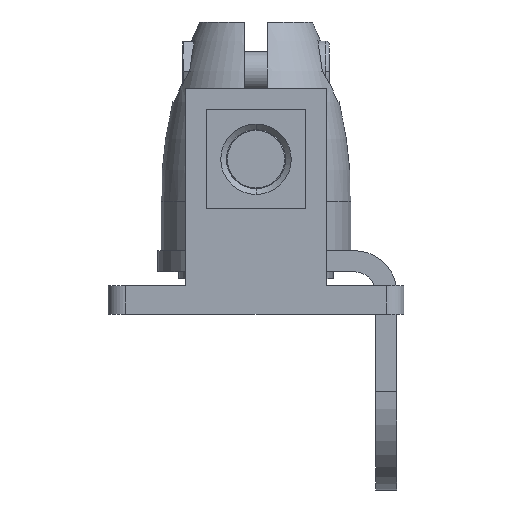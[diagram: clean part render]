
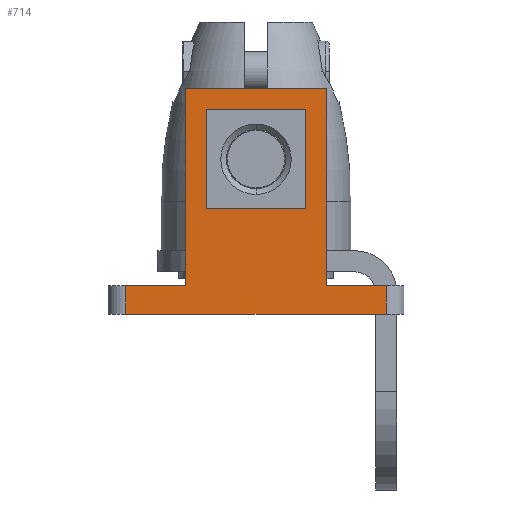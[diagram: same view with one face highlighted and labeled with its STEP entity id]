
A CAD part, front view. The second image highlights one B-rep face of the part: STEP entity #714.
In plain terms, the highlighted planar face has unit normal (0, -1, 0).
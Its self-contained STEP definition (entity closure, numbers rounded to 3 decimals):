
#714 = ADVANCED_FACE( '', ( #1169, #1170 ), #1171, .T. );
#1169 = FACE_OUTER_BOUND( '', #1650, .T. );
#1170 = FACE_BOUND( '', #1651, .T. );
#1171 = PLANE( '', #1652 );
#1650 = EDGE_LOOP( '', ( #3310, #3311, #3312, #3313, #3314, #3315, #3316, #3317 ) );
#1651 = EDGE_LOOP( '', ( #3318, #3319, #3320, #3321 ) );
#1652 = AXIS2_PLACEMENT_3D( '', #3322, #3323, #3324 );
#3310 = ORIENTED_EDGE( '', *, *, #3980, .F. );
#3311 = ORIENTED_EDGE( '', *, *, #3981, .T. );
#3312 = ORIENTED_EDGE( '', *, *, #3982, .T. );
#3313 = ORIENTED_EDGE( '', *, *, #3959, .F. );
#3314 = ORIENTED_EDGE( '', *, *, #3969, .T. );
#3315 = ORIENTED_EDGE( '', *, *, #3983, .F. );
#3316 = ORIENTED_EDGE( '', *, *, #3973, .F. );
#3317 = ORIENTED_EDGE( '', *, *, #3947, .F. );
#3318 = ORIENTED_EDGE( '', *, *, #3984, .T. );
#3319 = ORIENTED_EDGE( '', *, *, #3985, .T. );
#3320 = ORIENTED_EDGE( '', *, *, #3986, .T. );
#3321 = ORIENTED_EDGE( '', *, *, #3987, .T. );
#3322 = CARTESIAN_POINT( '', ( 10., -72.25, 26. ) );
#3323 = DIRECTION( '', ( 0., -1., 0. ) );
#3324 = DIRECTION( '', ( 0., 0., 1. ) );
#3947 = EDGE_CURVE( '', #4814, #4817, #4818, .T. );
#3959 = EDGE_CURVE( '', #4837, #4829, #4839, .T. );
#3969 = EDGE_CURVE( '', #4837, #4853, #4855, .T. );
#3973 = EDGE_CURVE( '', #4817, #4857, #4861, .T. );
#3980 = EDGE_CURVE( '', #4870, #4814, #4871, .T. );
#3981 = EDGE_CURVE( '', #4870, #4872, #4873, .T. );
#3982 = EDGE_CURVE( '', #4872, #4829, #4874, .T. );
#3983 = EDGE_CURVE( '', #4857, #4853, #4875, .T. );
#3984 = EDGE_CURVE( '', #4876, #4877, #4878, .T. );
#3985 = EDGE_CURVE( '', #4877, #4879, #4880, .T. );
#3986 = EDGE_CURVE( '', #4879, #4881, #4882, .T. );
#3987 = EDGE_CURVE( '', #4881, #4876, #4883, .T. );
#4814 = VERTEX_POINT( '', #6680 );
#4817 = VERTEX_POINT( '', #6684 );
#4818 = LINE( '', #6685, #6686 );
#4829 = VERTEX_POINT( '', #6699 );
#4837 = VERTEX_POINT( '', #6710 );
#4839 = LINE( '', #6712, #6713 );
#4853 = VERTEX_POINT( '', #6733 );
#4855 = LINE( '', #6735, #6736 );
#4857 = VERTEX_POINT( '', #6739 );
#4861 = LINE( '', #6744, #6745 );
#4870 = VERTEX_POINT( '', #6758 );
#4871 = LINE( '', #6759, #6760 );
#4872 = VERTEX_POINT( '', #6761 );
#4873 = LINE( '', #6762, #6763 );
#4874 = LINE( '', #6764, #6765 );
#4875 = LINE( '', #6766, #6767 );
#4876 = VERTEX_POINT( '', #6768 );
#4877 = VERTEX_POINT( '', #6769 );
#4878 = LINE( '', #6770, #6771 );
#4879 = VERTEX_POINT( '', #6772 );
#4880 = LINE( '', #6773, #6774 );
#4881 = VERTEX_POINT( '', #6775 );
#4882 = LINE( '', #6776, #6777 );
#4883 = LINE( '', #6778, #6779 );
#6680 = CARTESIAN_POINT( '', ( 10., -72.25, -2. ) );
#6684 = CARTESIAN_POINT( '', ( 18.5, -72.25, -2. ) );
#6685 = CARTESIAN_POINT( '', ( -18.5, -72.25, -2. ) );
#6686 = VECTOR( '', #7585, 1. );
#6699 = CARTESIAN_POINT( '', ( -10., -72.25, -2. ) );
#6710 = CARTESIAN_POINT( '', ( -18.5, -72.25, -2. ) );
#6712 = CARTESIAN_POINT( '', ( -18.5, -72.25, -2. ) );
#6713 = VECTOR( '', #7609, 1. );
#6733 = CARTESIAN_POINT( '', ( -18.5, -72.25, -6. ) );
#6735 = CARTESIAN_POINT( '', ( -18.5, -72.25, -2. ) );
#6736 = VECTOR( '', #7625, 1. );
#6739 = CARTESIAN_POINT( '', ( 18.5, -72.25, -6. ) );
#6744 = CARTESIAN_POINT( '', ( 18.5, -72.25, -2. ) );
#6745 = VECTOR( '', #7631, 1. );
#6758 = CARTESIAN_POINT( '', ( 10., -72.25, 26. ) );
#6759 = CARTESIAN_POINT( '', ( 10., -72.25, 26. ) );
#6760 = VECTOR( '', #7642, 1. );
#6761 = CARTESIAN_POINT( '', ( -10., -72.25, 26. ) );
#6762 = CARTESIAN_POINT( '', ( 10., -72.25, 26. ) );
#6763 = VECTOR( '', #7643, 1. );
#6764 = CARTESIAN_POINT( '', ( -10., -72.25, 26. ) );
#6765 = VECTOR( '', #7644, 1. );
#6766 = CARTESIAN_POINT( '', ( 10., -72.25, -6. ) );
#6767 = VECTOR( '', #7645, 1. );
#6768 = CARTESIAN_POINT( '', ( -7.05, -72.25, 23.05 ) );
#6769 = CARTESIAN_POINT( '', ( 7.05, -72.25, 23.05 ) );
#6770 = CARTESIAN_POINT( '', ( 1.475, -72.25, 23.05 ) );
#6771 = VECTOR( '', #7646, 1. );
#6772 = CARTESIAN_POINT( '', ( 7.05, -72.25, 8.95 ) );
#6773 = CARTESIAN_POINT( '', ( 7.05, -72.25, 24.525 ) );
#6774 = VECTOR( '', #7647, 1. );
#6775 = CARTESIAN_POINT( '', ( -7.05, -72.25, 8.95 ) );
#6776 = CARTESIAN_POINT( '', ( 8.525, -72.25, 8.95 ) );
#6777 = VECTOR( '', #7648, 1. );
#6778 = CARTESIAN_POINT( '', ( -7.05, -72.25, 17.475 ) );
#6779 = VECTOR( '', #7649, 1. );
#7585 = DIRECTION( '', ( 1., 0., 0. ) );
#7609 = DIRECTION( '', ( 1., 0., 0. ) );
#7625 = DIRECTION( '', ( 0., 0., -1. ) );
#7631 = DIRECTION( '', ( 0., 0., -1. ) );
#7642 = DIRECTION( '', ( 0., 0., -1. ) );
#7643 = DIRECTION( '', ( -1., 0., 0. ) );
#7644 = DIRECTION( '', ( 0., 0., -1. ) );
#7645 = DIRECTION( '', ( -1., 0., 0. ) );
#7646 = DIRECTION( '', ( 1., 0., 0. ) );
#7647 = DIRECTION( '', ( 0., 0., -1. ) );
#7648 = DIRECTION( '', ( -1., 0., 0. ) );
#7649 = DIRECTION( '', ( 0., 0., 1. ) );
